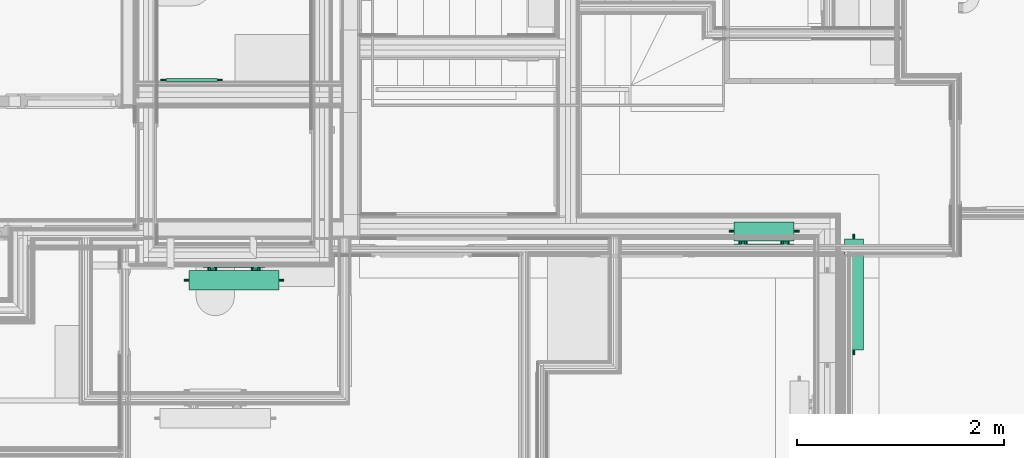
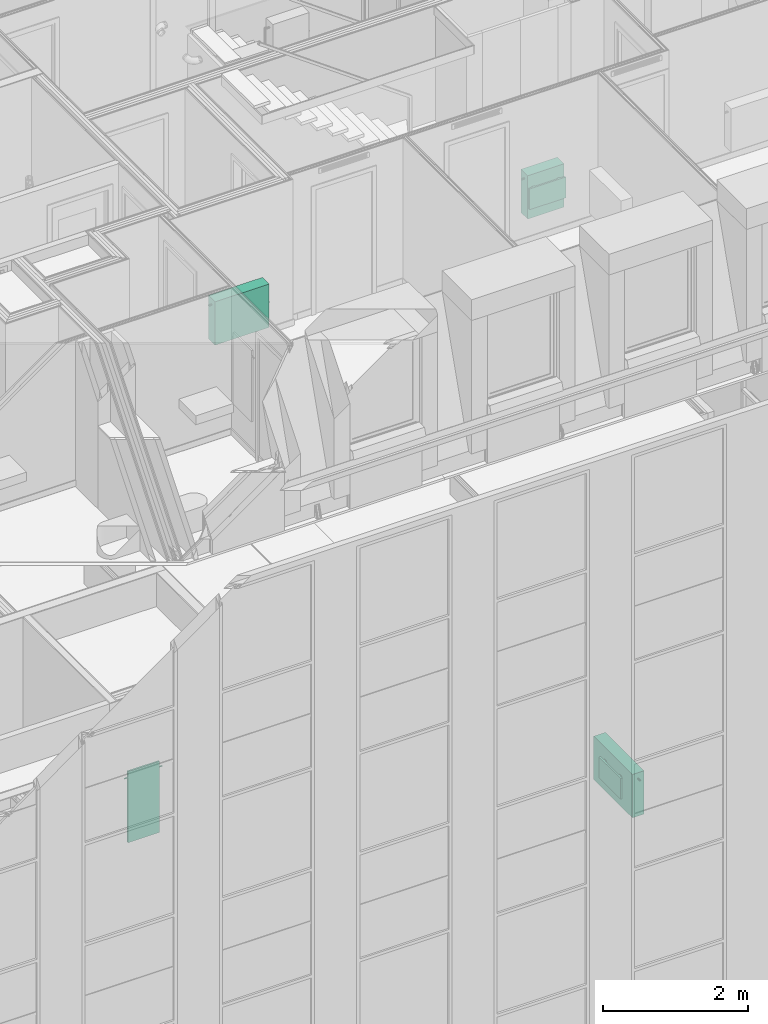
# One storey, part 151 of 169: 4 flow terminals.
"""IFC2X3 building model written with IfcOpenShell, lengths in metres."""

from ifc_helpers import new_model, entity, si_unit, converted_unit, derived_unit, money_unit, direction, frame, origin_with_axes, place, context, subcontext, project, spatial, open_shell, surface_model, material, type_object, element, save


model = new_model("IFC2X3")

# Units and contexts
model_context = context("Model", 3, precision=1e-05, world=origin_with_axes(), true_north=direction((0.0, 1.0)))
body_context = subcontext(model_context, "Body", "Model", "MODEL_VIEW", scale=1.0)
ifc_project = project(units=[si_unit("LENGTHUNIT", "METRE"), si_unit("AREAUNIT", "SQUARE_METRE"), si_unit("VOLUMEUNIT", "CUBIC_METRE"), si_unit("ABSORBEDDOSEUNIT", "GRAY"), si_unit("AMOUNTOFSUBSTANCEUNIT", "MOLE"), si_unit("DOSEEQUIVALENTUNIT", "SIEVERT"), si_unit("ELECTRICCAPACITANCEUNIT", "FARAD"), si_unit("ELECTRICCHARGEUNIT", "COULOMB"), si_unit("ELECTRICCONDUCTANCEUNIT", "SIEMENS"), si_unit("ELECTRICCURRENTUNIT", "AMPERE"), si_unit("ELECTRICRESISTANCEUNIT", "OHM"), si_unit("ELECTRICVOLTAGEUNIT", "VOLT"), si_unit("ENERGYUNIT", "JOULE"), si_unit("FORCEUNIT", "NEWTON"), si_unit("FREQUENCYUNIT", "HERTZ"), si_unit("ILLUMINANCEUNIT", "LUX"), si_unit("INDUCTANCEUNIT", "HENRY"), si_unit("LUMINOUSFLUXUNIT", "LUMEN"), si_unit("LUMINOUSINTENSITYUNIT", "CANDELA"), si_unit("MAGNETICFLUXDENSITYUNIT", "TESLA"), si_unit("MAGNETICFLUXUNIT", "WEBER"), si_unit("MASSUNIT", "GRAM"), converted_unit("PLANEANGLEUNIT", "degree", entity("IfcReal", 0.0174532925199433), si_unit("PLANEANGLEUNIT", "RADIAN"), dimensions=[0, 0, 0, 0, 0, 0, 0]), si_unit("POWERUNIT", "WATT"), si_unit("PRESSUREUNIT", "PASCAL"), si_unit("RADIOACTIVITYUNIT", "BECQUEREL"), si_unit("SOLIDANGLEUNIT", "STERADIAN"), si_unit("THERMODYNAMICTEMPERATUREUNIT", "KELVIN"), si_unit("TIMEUNIT", "SECOND"), derived_unit("ACCELERATIONUNIT", [(si_unit("LENGTHUNIT", "METRE"), 1), (si_unit("TIMEUNIT", "SECOND"), -2)]), derived_unit("ANGULARVELOCITYUNIT", [(converted_unit("PLANEANGLEUNIT", "degree", entity("IfcReal", 0.0174532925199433), si_unit("PLANEANGLEUNIT", "RADIAN"), dimensions=[0, 0, 0, 0, 0, 0, 0]), 1), (si_unit("TIMEUNIT", "SECOND"), -1)]), derived_unit("CURVATUREUNIT", [(converted_unit("PLANEANGLEUNIT", "degree", entity("IfcReal", 0.0174532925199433), si_unit("PLANEANGLEUNIT", "RADIAN"), dimensions=[0, 0, 0, 0, 0, 0, 0]), 1), (si_unit("LENGTHUNIT", "METRE"), -1)]), derived_unit("DYNAMICVISCOSITYUNIT", [(si_unit("PRESSUREUNIT", "PASCAL"), 1), (si_unit("TIMEUNIT", "SECOND"), 1)]), derived_unit("HEATFLUXDENSITYUNIT", [(si_unit("POWERUNIT", "WATT"), 1), (si_unit("LENGTHUNIT", "METRE"), -2)]), derived_unit("HEATINGVALUEUNIT", [(si_unit("ENERGYUNIT", "JOULE"), 1), (si_unit("MASSUNIT", "GRAM"), -1)]), derived_unit("INTEGERCOUNTRATEUNIT", [(si_unit("TIMEUNIT", "SECOND"), -1)]), derived_unit("IONCONCENTRATIONUNIT", [(si_unit("MASSUNIT", "GRAM"), 1), (si_unit("VOLUMEUNIT", "CUBIC_METRE"), -1)]), derived_unit("ISOTHERMALMOISTURECAPACITYUNIT", [(si_unit("VOLUMEUNIT", "CUBIC_METRE"), 1), (si_unit("MASSUNIT", "GRAM"), -1)]), derived_unit("KINEMATICVISCOSITYUNIT", [(si_unit("AREAUNIT", "SQUARE_METRE"), 1), (si_unit("TIMEUNIT", "SECOND"), -1)]), derived_unit("LINEARFORCEUNIT", [(si_unit("FORCEUNIT", "NEWTON"), 1), (si_unit("LENGTHUNIT", "METRE"), -1)]), derived_unit("LINEARMOMENTUNIT", [(si_unit("FORCEUNIT", "NEWTON"), 1), (si_unit("LENGTHUNIT", "METRE"), -1)]), derived_unit("LINEARSTIFFNESSUNIT", [(si_unit("FORCEUNIT", "NEWTON"), 1), (si_unit("LENGTHUNIT", "METRE"), -1)]), derived_unit("LINEARVELOCITYUNIT", [(si_unit("LENGTHUNIT", "METRE"), 1), (si_unit("TIMEUNIT", "SECOND"), -1)]), derived_unit("LUMINOUSINTENSITYDISTRIBUTIONUNIT", [(si_unit("LUMINOUSINTENSITYUNIT", "CANDELA"), 1), (si_unit("LUMINOUSFLUXUNIT", "LUMEN"), -1)]), derived_unit("MASSDENSITYUNIT", [(si_unit("MASSUNIT", "GRAM"), 1), (si_unit("VOLUMEUNIT", "CUBIC_METRE"), -1)]), derived_unit("MASSFLOWRATEUNIT", [(si_unit("MASSUNIT", "GRAM"), 1), (si_unit("TIMEUNIT", "SECOND"), -1)]), derived_unit("MASSPERLENGTHUNIT", [(si_unit("MASSUNIT", "GRAM"), 1), (si_unit("LENGTHUNIT", "METRE"), -1)]), derived_unit("MODULUSOFELASTICITYUNIT", [(si_unit("FORCEUNIT", "NEWTON"), 1), (si_unit("AREAUNIT", "SQUARE_METRE"), -1)]), derived_unit("MODULUSOFLINEARSUBGRADEREACTIONUNIT", [(si_unit("FORCEUNIT", "NEWTON"), 1), (si_unit("LENGTHUNIT", "METRE"), -2)]), derived_unit("MODULUSOFROTATIONALSUBGRADEREACTIONUNIT", [(si_unit("FORCEUNIT", "NEWTON"), 1), (si_unit("LENGTHUNIT", "METRE"), 1)]), derived_unit("MODULUSOFSUBGRADEREACTIONUNIT", [(si_unit("FORCEUNIT", "NEWTON"), 1), (si_unit("VOLUMEUNIT", "CUBIC_METRE"), -1)]), derived_unit("MOISTUREDIFFUSIVITYUNIT", [(si_unit("VOLUMEUNIT", "CUBIC_METRE"), 1), (si_unit("TIMEUNIT", "SECOND"), -1)]), derived_unit("MOLECULARWEIGHTUNIT", [(si_unit("MASSUNIT", "GRAM"), 1), (si_unit("AMOUNTOFSUBSTANCEUNIT", "MOLE"), -1)]), derived_unit("PLANARFORCEUNIT", [(si_unit("FORCEUNIT", "NEWTON"), 1), (si_unit("LENGTHUNIT", "METRE"), -2)]), derived_unit("ROTATIONALFREQUENCYUNIT", [(si_unit("TIMEUNIT", "SECOND"), -1)]), derived_unit("ROTATIONALMASSUNIT", [(si_unit("MASSUNIT", "GRAM"), 1), (si_unit("LENGTHUNIT", "METRE"), 2)]), derived_unit("ROTATIONALSTIFFNESSUNIT", [(si_unit("FORCEUNIT", "NEWTON"), 1), (si_unit("LENGTHUNIT", "METRE"), 1), (converted_unit("PLANEANGLEUNIT", "degree", entity("IfcReal", 0.0174532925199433), si_unit("PLANEANGLEUNIT", "RADIAN"), dimensions=[0, 0, 0, 0, 0, 0, 0]), -1)]), derived_unit("SECTIONAREAINTEGRALUNIT", [(si_unit("LENGTHUNIT", "METRE"), 5)]), derived_unit("SECTIONMODULUSUNIT", [(si_unit("LENGTHUNIT", "METRE"), 3)]), derived_unit("SHEARMODULUSUNIT", [(si_unit("FORCEUNIT", "NEWTON"), 1), (si_unit("AREAUNIT", "SQUARE_METRE"), -1)]), derived_unit("SOUNDPOWERUNIT", [(si_unit("ENERGYUNIT", "JOULE"), 1), (si_unit("TIMEUNIT", "SECOND"), -1)]), derived_unit("SPECIFICHEATCAPACITYUNIT", [(si_unit("FORCEUNIT", "NEWTON"), 1), (si_unit("MASSUNIT", "GRAM"), -1), (si_unit("THERMODYNAMICTEMPERATUREUNIT", "KELVIN"), -1)]), derived_unit("TEMPERATUREGRADIENTUNIT", [(si_unit("THERMODYNAMICTEMPERATUREUNIT", "KELVIN"), 1), (si_unit("LENGTHUNIT", "METRE"), -1)]), derived_unit("THERMALADMITTANCEUNIT", [(si_unit("POWERUNIT", "WATT"), 1), (si_unit("AREAUNIT", "SQUARE_METRE"), -1), (si_unit("THERMODYNAMICTEMPERATUREUNIT", "KELVIN"), -1)]), derived_unit("THERMALCONDUCTANCEUNIT", [(si_unit("POWERUNIT", "WATT"), 1), (si_unit("LENGTHUNIT", "METRE"), -1), (si_unit("THERMODYNAMICTEMPERATUREUNIT", "KELVIN"), -1)]), derived_unit("THERMALEXPANSIONCOEFFICIENTUNIT", [(si_unit("THERMODYNAMICTEMPERATUREUNIT", "KELVIN"), -1)]), derived_unit("THERMALRESISTANCEUNIT", [(si_unit("AREAUNIT", "SQUARE_METRE"), 1), (si_unit("POWERUNIT", "WATT"), -1)]), derived_unit("THERMALTRANSMITTANCEUNIT", [(si_unit("POWERUNIT", "WATT"), 1), (si_unit("AREAUNIT", "SQUARE_METRE"), -1), (si_unit("THERMODYNAMICTEMPERATUREUNIT", "KELVIN"), -1)]), derived_unit("TORQUEUNIT", [(si_unit("FORCEUNIT", "NEWTON"), 1), (si_unit("LENGTHUNIT", "METRE"), 1)]), derived_unit("VAPORPERMEABILITYUNIT", [(si_unit("MASSUNIT", "GRAM"), 1), (si_unit("TIMEUNIT", "SECOND"), -1)]), derived_unit("VOLUMETRICFLOWRATEUNIT", [(si_unit("VOLUMEUNIT", "CUBIC_METRE"), 1), (si_unit("TIMEUNIT", "SECOND"), -1)]), derived_unit("WARPINGCONSTANTUNIT", [(si_unit("LENGTHUNIT", "METRE"), 6)]), derived_unit("WARPINGMOMENTUNIT", [(si_unit("FORCEUNIT", "NEWTON"), 1), (si_unit("LENGTHUNIT", "METRE"), 2)]), money_unit("GBP")], contexts=[model_context])

# Site, building, storey, space
site_placement = place(None, origin_with_axes())
site = spatial("IfcSite", under=ifc_project, at=site_placement, Name="Site", CompositionType="ELEMENT")
building_placement = place(site_placement, origin_with_axes())
building = spatial("IfcBuilding", under=site, at=building_placement, Name="Building01", CompositionType="ELEMENT")
storey_placement = place(building_placement, frame((0.0, 0.0, 5.15), z_axis=(0.0, 0.0, 1.0), x_axis=(1.0, 0.0, 0.0)))
storey = spatial("IfcBuildingStorey", under=building, at=storey_placement, Name="1F", CompositionType="ELEMENT", Elevation=5.15)
space_1_placement = place(storey_placement, frame((20.122661, 7.155, 0.017975), z_axis=(0.0, 0.0, 1.0), x_axis=(0.0, -1.0, 0.0)))
space_1 = spatial("IfcSpace", under=storey, at=space_1_placement, Name="studio", CompositionType="ELEMENT", InteriorOrExteriorSpace="NOTDEFINED")

# Flow terminal
ifc_material = material(Name="M_BSUK_Ventilation")
space_heater_type_1 = type_object("IfcSpaceHeaterType", Name="M-BmvRadiatorpanel-Panel", PredefinedType="NOTDEFINED")
flow_terminal_1_placement = place(storey_placement, frame((22.77025, 4.9695, 0.665), z_axis=(0.0, 0.0, 1.0), x_axis=(0.0, 1.0, 0.0)))
element("IfcFlowTerminal", 1, at=flow_terminal_1_placement, inside=space_1, type_object=space_heater_type_1, material=ifc_material, Name="M-BmvRadiatorpanel-Panel", ObjectType="M-BmvRadiatorpanel-Panel", context=body_context, shape_type="SurfaceModel", body=[
    surface_model("IfcShellBasedSurfaceModel", [(-1.069, -0.0925, 0.365), (-1.069, 0.0925, 0.365), (0.0, 0.0925, 0.365), (0.0, -0.0925, 0.365), (-1.069, -0.0925, -0.365), (-1.069, 0.0925, -0.365), (0.0, -0.0925, -0.365), (0.0, 0.0925, -0.365), (-0.2345, 0.12025, 0.175), (-0.8345, 0.12025, 0.175), (-0.8345, 0.14525, 0.175), (-0.2345, 0.14525, 0.175), (-0.8345, 0.14525, -0.175), (-0.2345, 0.14525, -0.175), (-0.8345, 0.12025, -0.175), (-0.2345, 0.12025, -0.175), (-0.3245, 0.0925, 0.0775), (-0.3245, 0.12025, 0.0775), (-0.307279, 0.12025, 0.080925), (-0.307279, 0.0925, 0.080925), (-0.29268, 0.12025, 0.09068), (-0.29268, 0.0925, 0.09068), (-0.282925, 0.12025, 0.105279), (-0.282925, 0.0925, 0.105279), (-0.2795, 0.12025, 0.1225), (-0.2795, 0.0925, 0.1225), (-0.282925, 0.12025, 0.139721), (-0.282925, 0.0925, 0.139721), (-0.29268, 0.12025, 0.15432), (-0.29268, 0.0925, 0.15432), (-0.307279, 0.12025, 0.164075), (-0.307279, 0.0925, 0.164075), (-0.3245, 0.12025, 0.1675), (-0.3245, 0.0925, 0.1675), (-0.341721, 0.12025, 0.164075), (-0.341721, 0.0925, 0.164075), (-0.35632, 0.12025, 0.15432), (-0.35632, 0.0925, 0.15432), (-0.366075, 0.12025, 0.139721), (-0.366075, 0.0925, 0.139721), (-0.3695, 0.12025, 0.1225), (-0.3695, 0.0925, 0.1225), (-0.366075, 0.12025, 0.105279), (-0.366075, 0.0925, 0.105279), (-0.35632, 0.12025, 0.09068), (-0.35632, 0.0925, 0.09068), (-0.341721, 0.12025, 0.080925), (-0.341721, 0.0925, 0.080925), (-0.7445, 0.0925, 0.0775), (-0.7445, 0.12025, 0.0775), (-0.727279, 0.12025, 0.080925), (-0.727279, 0.0925, 0.080925), (-0.71268, 0.12025, 0.09068), (-0.71268, 0.0925, 0.09068), (-0.702925, 0.12025, 0.105279), (-0.702925, 0.0925, 0.105279), (-0.6995, 0.12025, 0.1225), (-0.6995, 0.0925, 0.1225), (-0.702925, 0.12025, 0.139721), (-0.702925, 0.0925, 0.139721), (-0.71268, 0.12025, 0.15432), (-0.71268, 0.0925, 0.15432), (-0.727279, 0.12025, 0.164075), (-0.727279, 0.0925, 0.164075), (-0.7445, 0.12025, 0.1675), (-0.7445, 0.0925, 0.1675), (-0.761721, 0.12025, 0.164075), (-0.761721, 0.0925, 0.164075), (-0.77632, 0.12025, 0.15432), (-0.77632, 0.0925, 0.15432), (-0.786075, 0.12025, 0.139721), (-0.786075, 0.0925, 0.139721), (-0.7895, 0.12025, 0.1225), (-0.7895, 0.0925, 0.1225), (-0.786075, 0.12025, 0.105279), (-0.786075, 0.0925, 0.105279), (-0.77632, 0.12025, 0.09068), (-0.77632, 0.0925, 0.09068), (-0.761721, 0.12025, 0.080925), (-0.761721, 0.0925, 0.080925), (0.05, 0.0, -0.0225), (0.0, 0.0, -0.0225), (0.0, 0.004784, -0.021548), (0.05, 0.004784, -0.021548), (0.0, 0.008839, -0.018839), (0.05, 0.008839, -0.018839), (0.0, 0.011548, -0.014784), (0.05, 0.011548, -0.014784), (0.0, 0.0125, -0.01), (0.05, 0.0125, -0.01), (0.0, 0.011548, -0.005216), (0.05, 0.011548, -0.005216), (0.0, 0.008839, -0.001161), (0.05, 0.008839, -0.001161), (0.0, 0.004784, 0.001548), (0.05, 0.004784, 0.001548), (0.0, 0.0, 0.0025), (0.05, 0.0, 0.0025), (0.0, -0.004784, 0.001548), (0.05, -0.004784, 0.001548), (0.0, -0.008839, -0.001161), (0.05, -0.008839, -0.001161), (0.0, -0.011548, -0.005216), (0.05, -0.011548, -0.005216), (0.0, -0.0125, -0.01), (0.05, -0.0125, -0.01), (0.0, -0.011548, -0.014784), (0.05, -0.011548, -0.014784), (0.0, -0.008839, -0.018839), (0.05, -0.008839, -0.018839), (0.0, -0.004784, -0.021548), (0.05, -0.004784, -0.021548), (-1.119, 0.0, 0.2525), (-1.069, 0.0, 0.2525), (-1.069, -0.004784, 0.253452), (-1.119, -0.004784, 0.253452), (-1.069, -0.008839, 0.256161), (-1.119, -0.008839, 0.256161), (-1.069, -0.011548, 0.260216), (-1.119, -0.011548, 0.260216), (-1.069, -0.0125, 0.265), (-1.119, -0.0125, 0.265), (-1.069, -0.011548, 0.269784), (-1.119, -0.011548, 0.269784), (-1.069, -0.008839, 0.273839), (-1.119, -0.008839, 0.273839), (-1.069, -0.004784, 0.276548), (-1.119, -0.004784, 0.276548), (-1.069, 0.0, 0.2775), (-1.119, 0.0, 0.2775), (-1.069, 0.004784, 0.276548), (-1.119, 0.004784, 0.276548), (-1.069, 0.008839, 0.273839), (-1.119, 0.008839, 0.273839), (-1.069, 0.011548, 0.269784), (-1.119, 0.011548, 0.269784), (-1.069, 0.0125, 0.265), (-1.119, 0.0125, 0.265), (-1.069, 0.011548, 0.260216), (-1.119, 0.011548, 0.260216), (-1.069, 0.008839, 0.256161), (-1.119, 0.008839, 0.256161), (-1.069, 0.004784, 0.253452), (-1.119, 0.004784, 0.253452)], [open_shell([[[0, 1, 2, 3]], [[4, 5, 1, 0]], [[6, 7, 5, 4]], [[3, 2, 7, 6]], [[1, 5, 7, 2]], [[3, 6, 4, 0]], [[8, 9, 10, 11]], [[11, 10, 12, 13]], [[13, 12, 14, 15]], [[15, 14, 9, 8]], [[9, 14, 12, 10]], [[11, 13, 15, 8]], [[16, 17, 18, 19]], [[19, 18, 20, 21]], [[21, 20, 22, 23]], [[23, 22, 24, 25]], [[25, 24, 26, 27]], [[27, 26, 28, 29]], [[29, 28, 30, 31]], [[31, 30, 32, 33]], [[33, 32, 34, 35]], [[35, 34, 36, 37]], [[37, 36, 38, 39]], [[39, 38, 40, 41]], [[41, 40, 42, 43]], [[43, 42, 44, 45]], [[45, 44, 46, 47]], [[47, 46, 17, 16]], [[48, 49, 50, 51]], [[51, 50, 52, 53]], [[53, 52, 54, 55]], [[55, 54, 56, 57]], [[57, 56, 58, 59]], [[59, 58, 60, 61]], [[61, 60, 62, 63]], [[63, 62, 64, 65]], [[65, 64, 66, 67]], [[67, 66, 68, 69]], [[69, 68, 70, 71]], [[71, 70, 72, 73]], [[73, 72, 74, 75]], [[75, 74, 76, 77]], [[77, 76, 78, 79]], [[79, 78, 49, 48]], [[80, 81, 82, 83]], [[83, 82, 84, 85]], [[85, 84, 86, 87]], [[87, 86, 88, 89]], [[89, 88, 90, 91]], [[91, 90, 92, 93]], [[93, 92, 94, 95]], [[95, 94, 96, 97]], [[97, 96, 98, 99]], [[99, 98, 100, 101]], [[101, 100, 102, 103]], [[103, 102, 104, 105]], [[105, 104, 106, 107]], [[107, 106, 108, 109]], [[109, 108, 110, 111]], [[111, 110, 81, 80]], [[112, 113, 114, 115]], [[115, 114, 116, 117]], [[117, 116, 118, 119]], [[119, 118, 120, 121]], [[121, 120, 122, 123]], [[123, 122, 124, 125]], [[125, 124, 126, 127]], [[127, 126, 128, 129]], [[129, 128, 130, 131]], [[131, 130, 132, 133]], [[133, 132, 134, 135]], [[135, 134, 136, 137]], [[137, 136, 138, 139]], [[139, 138, 140, 141]], [[141, 140, 142, 143]], [[143, 142, 113, 112]]])]),
])

# Space
space_2_placement = place(storey_placement, frame((17.73844, 7.349915, 9.86), z_axis=(0.0, 0.0, 1.0), x_axis=(0.0, -1.0, 0.0)))
space_2 = spatial("IfcSpace", under=storey, at=space_2_placement, Name="24", CompositionType="ELEMENT", InteriorOrExteriorSpace="NOTDEFINED")

# Flow terminals
flow_terminal_2_placement = place(storey_placement, frame((22.193545, 5.04225, 10.495), z_axis=(0.0, 0.0, 1.0), x_axis=(-1.0, 0.0, 0.0)))
element("IfcFlowTerminal", 2, at=flow_terminal_2_placement, inside=space_2, type_object=space_heater_type_1, material=ifc_material, Name="M-BmvRadiatorpanel-Panel", ObjectType="M-BmvRadiatorpanel-Panel", context=body_context, shape_type="SurfaceModel", body=[
    surface_model("IfcShellBasedSurfaceModel", [(0.58, -0.0925, 0.365), (0.58, 0.0925, 0.365), (0.0, 0.0925, 0.365), (0.0, -0.0925, 0.365), (0.58, -0.0925, -0.365), (0.58, 0.0925, -0.365), (0.0, -0.0925, -0.365), (0.0, 0.0925, -0.365), (0.0, 0.12025, 0.175), (0.58, 0.12025, 0.175), (0.58, 0.14525, 0.175), (0.0, 0.14525, 0.175), (0.58, 0.14525, -0.175), (0.0, 0.14525, -0.175), (0.58, 0.12025, -0.175), (0.0, 0.12025, -0.175), (0.087, 0.0925, 0.079), (0.087, 0.12025, 0.079), (0.103647, 0.12025, 0.082311), (0.103647, 0.0925, 0.082311), (0.117759, 0.12025, 0.091741), (0.117759, 0.0925, 0.091741), (0.127189, 0.12025, 0.105853), (0.127189, 0.0925, 0.105853), (0.1305, 0.12025, 0.1225), (0.1305, 0.0925, 0.1225), (0.127189, 0.12025, 0.139147), (0.127189, 0.0925, 0.139147), (0.117759, 0.12025, 0.153259), (0.117759, 0.0925, 0.153259), (0.103647, 0.12025, 0.162689), (0.103647, 0.0925, 0.162689), (0.087, 0.12025, 0.166), (0.087, 0.0925, 0.166), (0.070353, 0.12025, 0.162689), (0.070353, 0.0925, 0.162689), (0.056241, 0.12025, 0.153259), (0.056241, 0.0925, 0.153259), (0.046811, 0.12025, 0.139147), (0.046811, 0.0925, 0.139147), (0.0435, 0.12025, 0.1225), (0.0435, 0.0925, 0.1225), (0.046811, 0.12025, 0.105853), (0.046811, 0.0925, 0.105853), (0.056241, 0.12025, 0.091741), (0.056241, 0.0925, 0.091741), (0.070353, 0.12025, 0.082311), (0.070353, 0.0925, 0.082311), (0.493, 0.0925, 0.079), (0.493, 0.12025, 0.079), (0.509647, 0.12025, 0.082311), (0.509647, 0.0925, 0.082311), (0.523759, 0.12025, 0.091741), (0.523759, 0.0925, 0.091741), (0.533189, 0.12025, 0.105853), (0.533189, 0.0925, 0.105853), (0.5365, 0.12025, 0.1225), (0.5365, 0.0925, 0.1225), (0.533189, 0.12025, 0.139147), (0.533189, 0.0925, 0.139147), (0.523759, 0.12025, 0.153259), (0.523759, 0.0925, 0.153259), (0.509647, 0.12025, 0.162689), (0.509647, 0.0925, 0.162689), (0.493, 0.12025, 0.166), (0.493, 0.0925, 0.166), (0.476353, 0.12025, 0.162689), (0.476353, 0.0925, 0.162689), (0.462241, 0.12025, 0.153259), (0.462241, 0.0925, 0.153259), (0.452811, 0.12025, 0.139147), (0.452811, 0.0925, 0.139147), (0.4495, 0.12025, 0.1225), (0.4495, 0.0925, 0.1225), (0.452811, 0.12025, 0.105853), (0.452811, 0.0925, 0.105853), (0.462241, 0.12025, 0.091741), (0.462241, 0.0925, 0.091741), (0.476353, 0.12025, 0.082311), (0.476353, 0.0925, 0.082311), (-0.05, 0.0, -0.0225), (0.0, 0.0, -0.0225), (0.0, -0.004784, -0.021548), (-0.05, -0.004784, -0.021548), (0.0, -0.008839, -0.018839), (-0.05, -0.008839, -0.018839), (0.0, -0.011548, -0.014784), (-0.05, -0.011548, -0.014784), (0.0, -0.0125, -0.01), (-0.05, -0.0125, -0.01), (0.0, -0.011548, -0.005216), (-0.05, -0.011548, -0.005216), (0.0, -0.008839, -0.001161), (-0.05, -0.008839, -0.001161), (0.0, -0.004784, 0.001548), (-0.05, -0.004784, 0.001548), (0.0, 0.0, 0.0025), (-0.05, 0.0, 0.0025), (0.0, 0.004784, 0.001548), (-0.05, 0.004784, 0.001548), (0.0, 0.008839, -0.001161), (-0.05, 0.008839, -0.001161), (0.0, 0.011548, -0.005216), (-0.05, 0.011548, -0.005216), (0.0, 0.0125, -0.01), (-0.05, 0.0125, -0.01), (0.0, 0.011548, -0.014784), (-0.05, 0.011548, -0.014784), (0.0, 0.008839, -0.018839), (-0.05, 0.008839, -0.018839), (0.0, 0.004784, -0.021548), (-0.05, 0.004784, -0.021548), (0.63, 0.0, 0.2525), (0.58, 0.0, 0.2525), (0.58, 0.004784, 0.253452), (0.63, 0.004784, 0.253452), (0.58, 0.008839, 0.256161), (0.63, 0.008839, 0.256161), (0.58, 0.011548, 0.260216), (0.63, 0.011548, 0.260216), (0.58, 0.0125, 0.265), (0.63, 0.0125, 0.265), (0.58, 0.011548, 0.269784), (0.63, 0.011548, 0.269784), (0.58, 0.008839, 0.273839), (0.63, 0.008839, 0.273839), (0.58, 0.004784, 0.276548), (0.63, 0.004784, 0.276548), (0.58, 0.0, 0.2775), (0.63, 0.0, 0.2775), (0.58, -0.004784, 0.276548), (0.63, -0.004784, 0.276548), (0.58, -0.008839, 0.273839), (0.63, -0.008839, 0.273839), (0.58, -0.011548, 0.269784), (0.63, -0.011548, 0.269784), (0.58, -0.0125, 0.265), (0.63, -0.0125, 0.265), (0.58, -0.011548, 0.260216), (0.63, -0.011548, 0.260216), (0.58, -0.008839, 0.256161), (0.63, -0.008839, 0.256161), (0.58, -0.004784, 0.253452), (0.63, -0.004784, 0.253452)], [open_shell([[[0, 1, 2, 3]], [[4, 5, 1, 0]], [[6, 7, 5, 4]], [[3, 2, 7, 6]], [[1, 5, 7, 2]], [[3, 6, 4, 0]], [[8, 9, 10, 11]], [[11, 10, 12, 13]], [[13, 12, 14, 15]], [[15, 14, 9, 8]], [[9, 14, 12, 10]], [[11, 13, 15, 8]], [[16, 17, 18, 19]], [[19, 18, 20, 21]], [[21, 20, 22, 23]], [[23, 22, 24, 25]], [[25, 24, 26, 27]], [[27, 26, 28, 29]], [[29, 28, 30, 31]], [[31, 30, 32, 33]], [[33, 32, 34, 35]], [[35, 34, 36, 37]], [[37, 36, 38, 39]], [[39, 38, 40, 41]], [[41, 40, 42, 43]], [[43, 42, 44, 45]], [[45, 44, 46, 47]], [[47, 46, 17, 16]], [[48, 49, 50, 51]], [[51, 50, 52, 53]], [[53, 52, 54, 55]], [[55, 54, 56, 57]], [[57, 56, 58, 59]], [[59, 58, 60, 61]], [[61, 60, 62, 63]], [[63, 62, 64, 65]], [[65, 64, 66, 67]], [[67, 66, 68, 69]], [[69, 68, 70, 71]], [[71, 70, 72, 73]], [[73, 72, 74, 75]], [[75, 74, 76, 77]], [[77, 76, 78, 79]], [[79, 78, 49, 48]], [[80, 81, 82, 83]], [[83, 82, 84, 85]], [[85, 84, 86, 87]], [[87, 86, 88, 89]], [[89, 88, 90, 91]], [[91, 90, 92, 93]], [[93, 92, 94, 95]], [[95, 94, 96, 97]], [[97, 96, 98, 99]], [[99, 98, 100, 101]], [[101, 100, 102, 103]], [[103, 102, 104, 105]], [[105, 104, 106, 107]], [[107, 106, 108, 109]], [[109, 108, 110, 111]], [[111, 110, 81, 80]], [[112, 113, 114, 115]], [[115, 114, 116, 117]], [[117, 116, 118, 119]], [[119, 118, 120, 121]], [[121, 120, 122, 123]], [[123, 122, 124, 125]], [[125, 124, 126, 127]], [[127, 126, 128, 129]], [[129, 128, 130, 131]], [[131, 130, 132, 133]], [[133, 132, 134, 135]], [[135, 134, 136, 137]], [[137, 136, 138, 139]], [[139, 138, 140, 141]], [[141, 140, 142, 143]], [[143, 142, 113, 112]]])]),
])
flow_terminal_3_placement = place(storey_placement, frame((17.22094, 4.57175, 10.495), z_axis=(0.0, 0.0, 1.0), x_axis=(1.0, 0.0, 0.0)))
element("IfcFlowTerminal", 3, at=flow_terminal_3_placement, inside=space_2, type_object=space_heater_type_1, material=ifc_material, Name="M-BmvRadiatorpanel-Panel", ObjectType="M-BmvRadiatorpanel-Panel", context=body_context, shape_type="SurfaceModel", body=[
    surface_model("IfcShellBasedSurfaceModel", [(-0.865, -0.0925, 0.365), (-0.865, 0.0925, 0.365), (0.0, 0.0925, 0.365), (0.0, -0.0925, 0.365), (-0.865, -0.0925, -0.365), (-0.865, 0.0925, -0.365), (0.0, -0.0925, -0.365), (0.0, 0.0925, -0.365), (-0.1325, 0.12025, 0.175), (-0.7325, 0.12025, 0.175), (-0.7325, 0.14525, 0.175), (-0.1325, 0.14525, 0.175), (-0.7325, 0.14525, -0.175), (-0.1325, 0.14525, -0.175), (-0.7325, 0.12025, -0.175), (-0.1325, 0.12025, -0.175), (-0.2225, 0.0925, 0.0775), (-0.2225, 0.12025, 0.0775), (-0.205279, 0.12025, 0.080925), (-0.205279, 0.0925, 0.080925), (-0.19068, 0.12025, 0.09068), (-0.19068, 0.0925, 0.09068), (-0.180925, 0.12025, 0.105279), (-0.180925, 0.0925, 0.105279), (-0.1775, 0.12025, 0.1225), (-0.1775, 0.0925, 0.1225), (-0.180925, 0.12025, 0.139721), (-0.180925, 0.0925, 0.139721), (-0.19068, 0.12025, 0.15432), (-0.19068, 0.0925, 0.15432), (-0.205279, 0.12025, 0.164075), (-0.205279, 0.0925, 0.164075), (-0.2225, 0.12025, 0.1675), (-0.2225, 0.0925, 0.1675), (-0.239721, 0.12025, 0.164075), (-0.239721, 0.0925, 0.164075), (-0.25432, 0.12025, 0.15432), (-0.25432, 0.0925, 0.15432), (-0.264075, 0.12025, 0.139721), (-0.264075, 0.0925, 0.139721), (-0.2675, 0.12025, 0.1225), (-0.2675, 0.0925, 0.1225), (-0.264075, 0.12025, 0.105279), (-0.264075, 0.0925, 0.105279), (-0.25432, 0.12025, 0.09068), (-0.25432, 0.0925, 0.09068), (-0.239721, 0.12025, 0.080925), (-0.239721, 0.0925, 0.080925), (-0.6425, 0.0925, 0.0775), (-0.6425, 0.12025, 0.0775), (-0.625279, 0.12025, 0.080925), (-0.625279, 0.0925, 0.080925), (-0.61068, 0.12025, 0.09068), (-0.61068, 0.0925, 0.09068), (-0.600925, 0.12025, 0.105279), (-0.600925, 0.0925, 0.105279), (-0.5975, 0.12025, 0.1225), (-0.5975, 0.0925, 0.1225), (-0.600925, 0.12025, 0.139721), (-0.600925, 0.0925, 0.139721), (-0.61068, 0.12025, 0.15432), (-0.61068, 0.0925, 0.15432), (-0.625279, 0.12025, 0.164075), (-0.625279, 0.0925, 0.164075), (-0.6425, 0.12025, 0.1675), (-0.6425, 0.0925, 0.1675), (-0.659721, 0.12025, 0.164075), (-0.659721, 0.0925, 0.164075), (-0.67432, 0.12025, 0.15432), (-0.67432, 0.0925, 0.15432), (-0.684075, 0.12025, 0.139721), (-0.684075, 0.0925, 0.139721), (-0.6875, 0.12025, 0.1225), (-0.6875, 0.0925, 0.1225), (-0.684075, 0.12025, 0.105279), (-0.684075, 0.0925, 0.105279), (-0.67432, 0.12025, 0.09068), (-0.67432, 0.0925, 0.09068), (-0.659721, 0.12025, 0.080925), (-0.659721, 0.0925, 0.080925), (0.05, 0.0, -0.0225), (0.0, 0.0, -0.0225), (0.0, 0.004784, -0.021548), (0.05, 0.004784, -0.021548), (0.0, 0.008839, -0.018839), (0.05, 0.008839, -0.018839), (0.0, 0.011548, -0.014784), (0.05, 0.011548, -0.014784), (0.0, 0.0125, -0.01), (0.05, 0.0125, -0.01), (0.0, 0.011548, -0.005216), (0.05, 0.011548, -0.005216), (0.0, 0.008839, -0.001161), (0.05, 0.008839, -0.001161), (0.0, 0.004784, 0.001548), (0.05, 0.004784, 0.001548), (0.0, 0.0, 0.0025), (0.05, 0.0, 0.0025), (0.0, -0.004784, 0.001548), (0.05, -0.004784, 0.001548), (0.0, -0.008839, -0.001161), (0.05, -0.008839, -0.001161), (0.0, -0.011548, -0.005216), (0.05, -0.011548, -0.005216), (0.0, -0.0125, -0.01), (0.05, -0.0125, -0.01), (0.0, -0.011548, -0.014784), (0.05, -0.011548, -0.014784), (0.0, -0.008839, -0.018839), (0.05, -0.008839, -0.018839), (0.0, -0.004784, -0.021548), (0.05, -0.004784, -0.021548), (-0.915, 0.0, 0.2525), (-0.865, 0.0, 0.2525), (-0.865, -0.004784, 0.253452), (-0.915, -0.004784, 0.253452), (-0.865, -0.008839, 0.256161), (-0.915, -0.008839, 0.256161), (-0.865, -0.011548, 0.260216), (-0.915, -0.011548, 0.260216), (-0.865, -0.0125, 0.265), (-0.915, -0.0125, 0.265), (-0.865, -0.011548, 0.269784), (-0.915, -0.011548, 0.269784), (-0.865, -0.008839, 0.273839), (-0.915, -0.008839, 0.273839), (-0.865, -0.004784, 0.276548), (-0.915, -0.004784, 0.276548), (-0.865, 0.0, 0.2775), (-0.915, 0.0, 0.2775), (-0.865, 0.004784, 0.276548), (-0.915, 0.004784, 0.276548), (-0.865, 0.008839, 0.273839), (-0.915, 0.008839, 0.273839), (-0.865, 0.011548, 0.269784), (-0.915, 0.011548, 0.269784), (-0.865, 0.0125, 0.265), (-0.915, 0.0125, 0.265), (-0.865, 0.011548, 0.260216), (-0.915, 0.011548, 0.260216), (-0.865, 0.008839, 0.256161), (-0.915, 0.008839, 0.256161), (-0.865, 0.004784, 0.253452), (-0.915, 0.004784, 0.253452)], [open_shell([[[0, 1, 2, 3]], [[4, 5, 1, 0]], [[6, 7, 5, 4]], [[3, 2, 7, 6]], [[1, 5, 7, 2]], [[3, 6, 4, 0]], [[8, 9, 10, 11]], [[11, 10, 12, 13]], [[13, 12, 14, 15]], [[15, 14, 9, 8]], [[9, 14, 12, 10]], [[11, 13, 15, 8]], [[16, 17, 18, 19]], [[19, 18, 20, 21]], [[21, 20, 22, 23]], [[23, 22, 24, 25]], [[25, 24, 26, 27]], [[27, 26, 28, 29]], [[29, 28, 30, 31]], [[31, 30, 32, 33]], [[33, 32, 34, 35]], [[35, 34, 36, 37]], [[37, 36, 38, 39]], [[39, 38, 40, 41]], [[41, 40, 42, 43]], [[43, 42, 44, 45]], [[45, 44, 46, 47]], [[47, 46, 17, 16]], [[48, 49, 50, 51]], [[51, 50, 52, 53]], [[53, 52, 54, 55]], [[55, 54, 56, 57]], [[57, 56, 58, 59]], [[59, 58, 60, 61]], [[61, 60, 62, 63]], [[63, 62, 64, 65]], [[65, 64, 66, 67]], [[67, 66, 68, 69]], [[69, 68, 70, 71]], [[71, 70, 72, 73]], [[73, 72, 74, 75]], [[75, 74, 76, 77]], [[77, 76, 78, 79]], [[79, 78, 49, 48]], [[80, 81, 82, 83]], [[83, 82, 84, 85]], [[85, 84, 86, 87]], [[87, 86, 88, 89]], [[89, 88, 90, 91]], [[91, 90, 92, 93]], [[93, 92, 94, 95]], [[95, 94, 96, 97]], [[97, 96, 98, 99]], [[99, 98, 100, 101]], [[101, 100, 102, 103]], [[103, 102, 104, 105]], [[105, 104, 106, 107]], [[107, 106, 108, 109]], [[109, 108, 110, 111]], [[111, 110, 81, 80]], [[112, 113, 114, 115]], [[115, 114, 116, 117]], [[117, 116, 118, 119]], [[119, 118, 120, 121]], [[121, 120, 122, 123]], [[123, 122, 124, 125]], [[125, 124, 126, 127]], [[127, 126, 128, 129]], [[129, 128, 130, 131]], [[131, 130, 132, 133]], [[133, 132, 134, 135]], [[135, 134, 136, 137]], [[137, 136, 138, 139]], [[139, 138, 140, 141]], [[141, 140, 142, 143]], [[143, 142, 113, 112]]])]),
])

# Space
space_3_placement = place(storey_placement, frame((15.83, 8.65, 0.017975), z_axis=(0.0, 0.0, 1.0), x_axis=(0.0, -1.0, 0.0)))
space_3 = spatial("IfcSpace", under=storey, at=space_3_placement, Name="bath", CompositionType="ELEMENT", InteriorOrExteriorSpace="NOTDEFINED")

# Flow terminal
space_heater_type_2 = type_object("IfcSpaceHeaterType", Name="M-BmvRadiator-Column", PredefinedType="NOTDEFINED")
flow_terminal_4_placement = place(storey_placement, frame((16.129895, 6.504218, 1.2), z_axis=(0.0, 0.0, 1.0), x_axis=(-1.0, 0.0, 0.0)))
element("IfcFlowTerminal", 4, at=flow_terminal_4_placement, inside=space_3, type_object=space_heater_type_2, material=ifc_material, Name="M-BmvRadiator-Column", ObjectType="M-BmvRadiator-Column", context=body_context, shape_type="SurfaceModel", body=[
    surface_model("IfcShellBasedSurfaceModel", [(0.0, -0.0125, 0.6), (0.0, -0.0125, -0.6), (0.0, 0.0125, -0.6), (0.0, 0.0125, 0.6), (-0.5, -0.0125, 0.6), (-0.5, -0.0125, -0.6), (-0.5, 0.0125, -0.6), (-0.5, 0.0125, 0.6), (-0.1, 0.0125, 0.6), (-0.1, -0.0125, 0.6), (-0.1, -0.0125, -0.6), (-0.1, 0.0125, -0.6), (-0.2, 0.0125, 0.6), (-0.2, -0.0125, 0.6), (-0.2, -0.0125, -0.6), (-0.2, 0.0125, -0.6), (-0.3, 0.0125, 0.6), (-0.3, -0.0125, 0.6), (-0.3, -0.0125, -0.6), (-0.3, 0.0125, -0.6), (-0.4, 0.0125, 0.6), (-0.4, -0.0125, 0.6), (-0.4, -0.0125, -0.6), (-0.4, 0.0125, -0.6), (0.05, 0.0, 0.4825), (0.0, 0.0, 0.4825), (0.0, 0.003827, 0.483261), (0.05, 0.003827, 0.483261), (0.0, 0.007071, 0.485429), (0.05, 0.007071, 0.485429), (0.0, 0.009239, 0.488673), (0.05, 0.009239, 0.488673), (0.0, 0.01, 0.4925), (0.05, 0.01, 0.4925), (0.0, 0.009239, 0.496327), (0.05, 0.009239, 0.496327), (0.0, 0.007071, 0.499571), (0.05, 0.007071, 0.499571), (0.0, 0.003827, 0.501739), (0.05, 0.003827, 0.501739), (0.0, 0.0, 0.5025), (0.05, 0.0, 0.5025), (0.0, -0.003827, 0.501739), (0.05, -0.003827, 0.501739), (0.0, -0.007071, 0.499571), (0.05, -0.007071, 0.499571), (0.0, -0.009239, 0.496327), (0.05, -0.009239, 0.496327), (0.0, -0.01, 0.4925), (0.05, -0.01, 0.4925), (0.0, -0.009239, 0.488673), (0.05, -0.009239, 0.488673), (0.0, -0.007071, 0.485429), (0.05, -0.007071, 0.485429), (0.0, -0.003827, 0.483261), (0.05, -0.003827, 0.483261), (-0.55, 0.0, 0.4884), (-0.5, 0.0, 0.4884), (-0.5, -0.003827, 0.489161), (-0.55, -0.003827, 0.489161), (-0.5, -0.007071, 0.491329), (-0.55, -0.007071, 0.491329), (-0.5, -0.009239, 0.494573), (-0.55, -0.009239, 0.494573), (-0.5, -0.01, 0.4984), (-0.55, -0.01, 0.4984), (-0.5, -0.009239, 0.502227), (-0.55, -0.009239, 0.502227), (-0.5, -0.007071, 0.505471), (-0.55, -0.007071, 0.505471), (-0.5, -0.003827, 0.507639), (-0.55, -0.003827, 0.507639), (-0.5, 0.0, 0.5084), (-0.55, 0.0, 0.5084), (-0.5, 0.003827, 0.507639), (-0.55, 0.003827, 0.507639), (-0.5, 0.007071, 0.505471), (-0.55, 0.007071, 0.505471), (-0.5, 0.009239, 0.502227), (-0.55, 0.009239, 0.502227), (-0.5, 0.01, 0.4984), (-0.55, 0.01, 0.4984), (-0.5, 0.009239, 0.494573), (-0.55, 0.009239, 0.494573), (-0.5, 0.007071, 0.491329), (-0.55, 0.007071, 0.491329), (-0.5, 0.003827, 0.489161), (-0.55, 0.003827, 0.489161)], [open_shell([[[0, 1, 2, 3]], [[4, 5, 6, 7]], [[8, 3, 0, 9]], [[9, 0, 1, 10]], [[10, 1, 2, 11]], [[11, 2, 3, 8]], [[12, 8, 9, 13]], [[13, 9, 10, 14]], [[14, 10, 11, 15]], [[15, 11, 8, 12]], [[16, 12, 13, 17]], [[17, 13, 14, 18]], [[18, 14, 15, 19]], [[19, 15, 12, 16]], [[20, 16, 17, 21]], [[21, 17, 18, 22]], [[22, 18, 19, 23]], [[23, 19, 16, 20]], [[7, 20, 21, 4]], [[4, 21, 22, 5]], [[5, 22, 23, 6]], [[6, 23, 20, 7]], [[24, 25, 26, 27]], [[27, 26, 28, 29]], [[29, 28, 30, 31]], [[31, 30, 32, 33]], [[33, 32, 34, 35]], [[35, 34, 36, 37]], [[37, 36, 38, 39]], [[39, 38, 40, 41]], [[41, 40, 42, 43]], [[43, 42, 44, 45]], [[45, 44, 46, 47]], [[47, 46, 48, 49]], [[49, 48, 50, 51]], [[51, 50, 52, 53]], [[53, 52, 54, 55]], [[55, 54, 25, 24]], [[56, 57, 58, 59]], [[59, 58, 60, 61]], [[61, 60, 62, 63]], [[63, 62, 64, 65]], [[65, 64, 66, 67]], [[67, 66, 68, 69]], [[69, 68, 70, 71]], [[71, 70, 72, 73]], [[73, 72, 74, 75]], [[75, 74, 76, 77]], [[77, 76, 78, 79]], [[79, 78, 80, 81]], [[81, 80, 82, 83]], [[83, 82, 84, 85]], [[85, 84, 86, 87]], [[87, 86, 57, 56]]])]),
])

save(model, "model.ifc")
